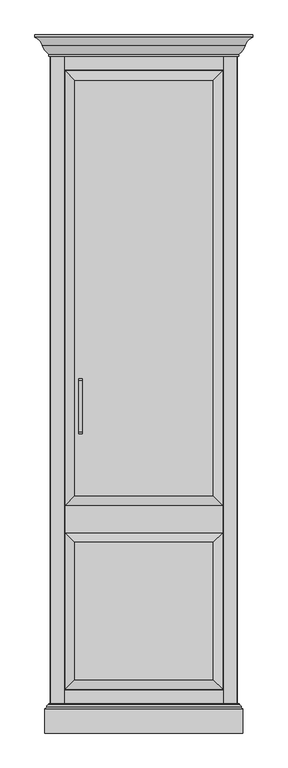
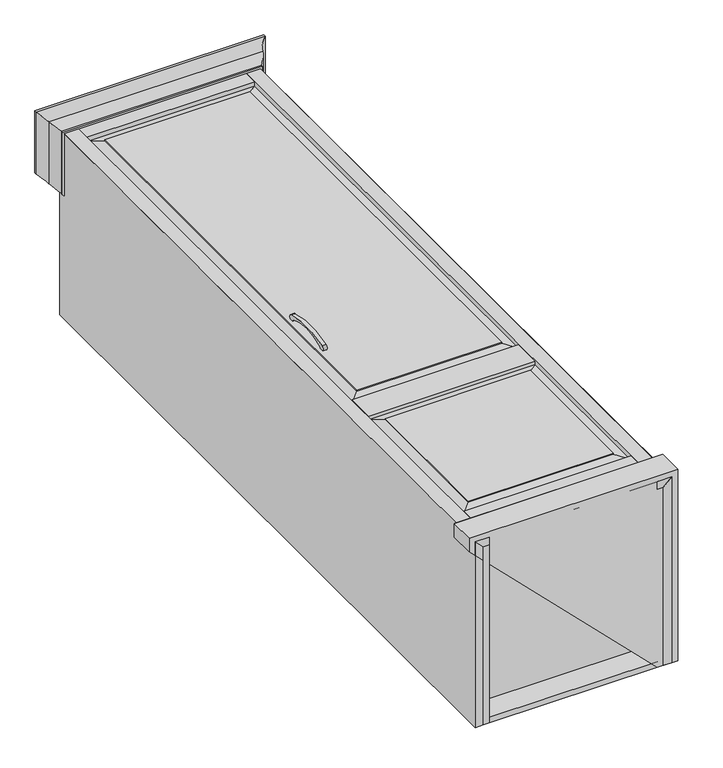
"""IFC4 building model written with IfcOpenShell, lengths in millimetres: proxy geometry, CCN^BRIGHTON_L1 24x24 RT WARDROBE-PARTS SOLID."""

from ifc_helpers import new_model, si_unit, point, frame, frame_2d, origin, place, context, project, spatial, polyline, circle_curve, ellipse_curve, trimmed, segment, composite_curve, outline, extrude, faceted_brep, source, transform, mapped, element, save
from ifc_brep_helpers import plane_surface, cylinder_surface, revolved_surface, advanced_brep


def generic_models_d91ada1b(model_context):
    return source(origin(), model_context, "Body", "SolidModel", [
        extrude(outline(composite_curve([segment(polyline([(-13.4070016, 318.9046891), (-24.7207101, 318.9046891)]), True, "CONTINUOUS"), segment(trimmed(circle_curve(frame_2d((-19.0638559, 325.9046891)), 9.0), [point((-24.7207101, 318.9046891))], [point((-28.0638559, 325.9046891))], False, "CARTESIAN"), True, "CONTINUOUS"), segment(trimmed(circle_curve(frame_2d((-100.0638559, 163.3351962)), 177.8), [point((-28.0638559, 325.9046891))], [point((-172.0638559, 325.9046891))], True, "CARTESIAN"), True, "CONTINUOUS"), segment(trimmed(circle_curve(frame_2d((-181.0638559, 325.9046891)), 9.0), [point((-172.0638559, 325.9046891))], [point((-175.4070016, 318.9046891))], False, "CARTESIAN"), True, "CONTINUOUS"), segment(polyline([(-175.4070016, 318.9046891), (-186.7207101, 318.9046891)]), True, "CONTINUOUS"), segment(trimmed(circle_curve(frame_2d((-181.0638559, 325.9046891)), 9.0), [point((-186.7207101, 318.9046891))], [point((-183.6732518, 334.5181119))], False, "CARTESIAN"), True, "CONTINUOUS"), segment(trimmed(circle_curve(frame_2d((-100.0638559, 58.5296891)), 288.375), [point((-183.6732518, 334.5181119))], [point((-16.4544599, 334.5181119))], False, "CARTESIAN"), True, "CONTINUOUS"), segment(trimmed(circle_curve(frame_2d((-19.0638559, 325.9046891)), 9.0), [point((-16.4544599, 334.5181119))], [point((-13.4070016, 318.9046891))], False, "CARTESIAN"), True, "CONTINUOUS")], self_intersect=False)), frame((-319.0362544, 0.0, 0.0), z_axis=(1.0, 0.0, 0.0), x_axis=(0.0, 1.0, 0.0)), (0.0, 0.0, 1.0), 12.0),
        extrude(outline(polyline([(-290.6953109, 198.1387456), (318.9046891, 198.1387456), (293.5046891, 172.7387456), (-290.6953109, 172.7387456), (-290.6953109, 198.1387456)])), frame((0.0, -1166.8638559, 0.0), z_axis=(0.0, 1.0, 0.0), x_axis=(0.0, 0.0, 1.0)), (0.0, 0.0, 1.0), 2235.2),
        extrude(outline(polyline([(318.9046891, -411.4612544), (293.5046891, -386.0612544), (293.5046891, -367.0112544), (318.9046891, -367.0112544), (318.9046891, -411.4612544)])), frame((0.0, -1166.8638559, 0.0), z_axis=(0.0, 1.0, 0.0), x_axis=(0.0, 0.0, 1.0)), (0.0, 0.0, 1.0), 2235.2),
        extrude(outline(polyline([(-367.0112544, 1042.9361441), (-367.0112544, -1166.8638559), (-386.0612544, -1166.8638559), (-386.0612544, 1042.9361441), (-367.0112544, 1042.9361441)])), frame((0.0, 0.0, -290.6953109), z_axis=(0.0, 0.0, 1.0), x_axis=(1.0, 0.0, 0.0)), (0.0, 0.0, 1.0), 584.2),
        extrude(outline(polyline([(-367.0112544, -1090.6638559), (-367.0112544, -1071.6138559), (153.6887456, -1071.6138559), (153.6887456, -1090.6638559), (-367.0112544, -1090.6638559)])), frame((0.0, 0.0, -271.6453109), z_axis=(0.0, 0.0, 1.0), x_axis=(1.0, 0.0, 0.0)), (0.0, 0.0, 1.0), 565.15),
        extrude(outline(polyline([(172.7387456, 1042.9361441), (-386.0612544, 1042.9361441), (-386.0612544, 1068.3361441), (172.7387456, 1068.3361441), (172.7387456, 1042.9361441)])), frame((0.0, 0.0, -290.6953109), z_axis=(0.0, 0.0, 1.0), x_axis=(1.0, 0.0, 0.0)), (0.0, 0.0, 1.0), 584.2),
        advanced_brep(
        [(-436.8052662, 1112.7861441, 344.2487009), (-387.8957697, 1042.9361441, 295.3392044), (-387.8957697, 1042.9361441, 92.1392044), (-436.8052662, 1112.7861441, 141.0487009), (174.5732609, 1042.9361441, -290.6953109), (203.7013456, 1042.9361441, -290.6953109), (203.7013456, 1042.9361441, 324.4672891), (-417.0238544, 1042.9361441, 324.4672891), (-417.0238544, 1042.9361441, 121.2672891), (174.5732609, 1042.9361441, 295.3392044), (223.4827575, 1112.7861441, -290.6953109), (248.9387456, 1112.7861441, -290.6953109), (248.9387456, 1104.8613441, -290.6953109), (224.8521176, 1078.8799586, -290.6953109), (203.7013456, 1049.6761688, -290.6953109), (223.4827575, 1112.7861441, 344.2487009), (-438.1746263, 1078.8799586, 142.418061), (-462.2612544, 1104.8613441, 166.5046891), (-462.2612544, 1112.7861441, 166.5046891), (-417.0238544, 1049.6761688, 121.2672891), (-462.2612544, 1112.7861441, 369.7046891), (248.9387456, 1112.7861441, 369.7046891), (-462.2612544, 1104.8613441, 369.7046891), (-438.1746263, 1078.8799586, 345.618061), (-417.0238544, 1049.6761688, 324.4672891), (224.8521176, 1078.8799586, 345.618061), (248.9387456, 1104.8613441, 369.7046891), (203.7013456, 1049.6761688, 324.4672891)],
        [
            (0, 1),
            (1, 2),
            (2, 3),
            (3, 0),
            (4, 5),
            (5, 6),
            (6, 7),
            (7, 8),
            (8, 2),
            (1, 9),
            (9, 4),
            (4, 10),
            (10, 11),
            (11, 12),
            (12, 13, circle_curve(frame((261.6320966, 1068.9379695, -290.6953109), z_axis=(0.0, 0.0, 1.0), x_axis=(0.9653537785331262, -0.2609445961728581, 0.0)), 38.1)),
            (13, 14, circle_curve(frame((175.8121456, 1092.1359441, -290.6953109), z_axis=(0.0, 0.0, -1.0), x_axis=(0.9653537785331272, -0.26094459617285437, 0.0)), 50.8)),
            (14, 5),
            (9, 15),
            (15, 10),
            (16, 17, ellipse_curve(frame((-474.9546053, 1068.9379695, 179.19804), z_axis=(0.7071067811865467, 0.0, 0.7071067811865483), x_axis=(0.7071067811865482, 0.0, -0.7071067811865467)), 53.8815367, 38.1)),
            (17, 18),
            (18, 3),
            (8, 19),
            (19, 16, ellipse_curve(frame((-389.1346544, 1092.1359441, 93.3780891), z_axis=(-0.7071067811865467, 0.0, -0.7071067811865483), x_axis=(0.7071067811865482, 0.0, -0.7071067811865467)), 71.842049, 50.8)),
            (18, 20),
            (20, 21),
            (21, 11),
            (15, 0),
            (17, 22),
            (22, 20),
            (16, 23),
            (23, 22, ellipse_curve(frame((-474.9546053, 1068.9379695, 382.39804), z_axis=(0.7071067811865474, 0.0, 0.7071067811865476), x_axis=(0.7071067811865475, 0.0, -0.7071067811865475)), 53.8815367, 38.1)),
            (19, 24),
            (24, 23, ellipse_curve(frame((-389.1346544, 1092.1359441, 296.5780891), z_axis=(-0.7071067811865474, 0.0, -0.7071067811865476), x_axis=(0.7071067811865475, 0.0, -0.7071067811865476)), 71.842049, 50.8)),
            (23, 25),
            (25, 26, ellipse_curve(frame((261.6320966, 1068.9379695, 382.39804), z_axis=(0.7071067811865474, 0.0, -0.7071067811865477), x_axis=(-0.7071067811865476, 0.0, -0.7071067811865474)), 53.8815367, 38.1)),
            (26, 22),
            (24, 27),
            (27, 25, ellipse_curve(frame((175.8121456, 1092.1359441, 296.5780891), z_axis=(-0.7071067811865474, 0.0, 0.7071067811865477), x_axis=(-0.7071067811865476, 0.0, -0.7071067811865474)), 71.842049, 50.8)),
            (24, 7),
            (6, 27),
            (12, 26),
            (25, 13),
            (21, 26),
            (14, 27),
        ],
        [
            plane_surface(frame((-436.8052662, 1112.7861441, 344.2487009), z_axis=(0.8191520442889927, 0.5735764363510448, 0.0), x_axis=(0.49754281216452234, -0.7105647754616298, -0.4975428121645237))),
            plane_surface(frame((198.1387456, 1042.9361441, 318.9046891), z_axis=(0.0, -1.0, 0.0), x_axis=(0.0, 0.0, 1.0))),
            plane_surface(frame((223.5387456, 1077.8611441, -290.6953109), z_axis=(0.0, 0.0, -1.0), x_axis=(-1.0, 0.0, 0.0))),
            plane_surface(frame((223.4827575, 1112.7861441, -290.6953109), z_axis=(-0.8191520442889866, 0.5735764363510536, 0.0), x_axis=(-0.5735764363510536, -0.8191520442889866, 0.0))),
            plane_surface(frame((-436.8612544, 1108.8237441, 141.1046891), z_axis=(-0.7071067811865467, 0.0, -0.7071067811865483), x_axis=(-0.7071067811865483, 0.0, 0.7071067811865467))),
            plane_surface(frame((198.1387456, 1112.7861441, 369.7046891), z_axis=(0.0, 1.0, 0.0), x_axis=(0.0, 0.0, -1.0))),
            plane_surface(frame((-462.2612544, 1104.8613441, 369.7046891), z_axis=(-1.0, 0.0, 0.0), x_axis=(0.0, 1.0, 0.0))),
            revolved_surface(polyline([(-513.0546053, 1068.9379695, 141.0980400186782), (-513.0546053, 1068.9379695, 420.4980399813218)]), (-474.9546053, 1068.9379695, 382.39804), (0.0, 0.0, -1.0)),
            cylinder_surface(frame((-389.1346544, 1092.1359441, 296.5780891), z_axis=(0.0, 0.0, -1.0), x_axis=(-1.0, 0.0, 0.0)), 50.8),
            revolved_surface(polyline([(-513.0546052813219, 1058.9959803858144, 419.17801896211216), (299.73209658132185, 1058.9959803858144, 419.17801896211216)]), (198.1387456, 1068.9379695, 382.39804), (-1.0, 0.0, 0.0)),
            cylinder_surface(frame((198.1387456, 1092.1359441, 296.5780891), z_axis=(-0.9999999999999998, 0.0, 0.0), x_axis=(0.0, -0.26094459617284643, 0.9653537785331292)), 50.8),
            plane_surface(frame((198.1387456, 1042.9361441, 324.4672891), z_axis=(0.0, 0.0, 1.0), x_axis=(0.0, 1.0, 0.0))),
            revolved_surface(polyline([(298.41207556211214, 1058.9959803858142, 420.49803998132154), (298.41207556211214, 1058.9959803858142, -290.6953109)]), (261.6320966, 1068.9379695, -290.6953109), (0.0, 0.0, 0.9999999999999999)),
            plane_surface(frame((248.9387456, 1104.8613441, -290.6953109), z_axis=(1.0, 0.0, 0.0), x_axis=(0.0, 1.0, 0.0))),
            plane_surface(frame((203.7013456, 1042.9361441, -290.6953109), z_axis=(1.0, 0.0, 0.0), x_axis=(0.0, 1.0, 0.0))),
            cylinder_surface(frame((175.8121456, 1092.1359441, -290.6953109), z_axis=(0.0, 0.0, 1.0), x_axis=(0.9653537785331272, -0.26094459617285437, 0.0)), 50.8),
            plane_surface(frame((-417.0238544, 1042.9361441, 324.4672891), z_axis=(-1.0, 0.0, 0.0), x_axis=(0.0, 1.0, 0.0))),
            plane_surface(frame((198.1387456, 1104.8613441, 369.7046891), z_axis=(0.0, 0.0, 1.0), x_axis=(0.0, 1.0, 0.0))),
            plane_surface(frame((198.1387456, 1112.7861441, 344.2487009), z_axis=(0.0, 0.5735764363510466, -0.8191520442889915), x_axis=(0.0, -0.8191520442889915, -0.5735764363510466))),
        ],
        [
            (0, [[1, 2, 3, 4]]),
            (1, [[5, 6, 7, 8, 9, -2, 10, 11]]),
            (2, [[-5, 12, 13, 14, 15, 16, 17]]),
            (3, [[18, 19, -12, -11]]),
            (4, [[20, 21, 22, -3, -9, 23, 24]]),
            (5, [[-22, 25, 26, 27, -13, -19, 28, -4]]),
            (6, [[-21, 29, 30, -25]]),
            (7, [[-20, 31, 32, -29]]),
            (8, [[-24, 33, 34, -31]]),
            (9, [[-32, 35, 36, 37]]),
            (10, [[-34, 38, 39, -35]]),
            (11, [[40, -7, 41, -38]]),
            (12, [[42, -36, 43, -15]]),
            (13, [[-27, 44, -42, -14]]),
            (14, [[-6, -17, 45, -41]]),
            (15, [[-43, -39, -45, -16]]),
            (16, [[-23, -8, -40, -33]]),
            (17, [[-26, -30, -37, -44]]),
            (18, [[-1, -28, -18, -10]]),
        ],
    ),
        extrude(outline(polyline([(293.5046891, 172.7387456), (318.9046891, 198.1387456), (318.9046891, 153.6887456), (293.5046891, 153.6887456), (293.5046891, 172.7387456)])), frame((0.0, -1166.8638559, 0.0), z_axis=(0.0, 1.0, 0.0), x_axis=(0.0, 0.0, 1.0)), (0.0, 0.0, 1.0), 2235.2),
        faceted_brep([(-332.0862544, -392.1638559, 318.9046891), (-332.0862544, -392.1638559, 315.7296891), (118.7637456, -392.1638559, 315.7296891), (118.7637456, -392.1638559, 318.9046891), (-363.8362544, -423.9138559, 307.2223022), (150.5137456, -423.9138559, 307.2223022), (-363.8362544, -512.8138559, 307.2223022), (-332.0862544, -544.5638559, 315.7296891), (118.7637456, -544.5638559, 315.7296891), (150.5137456, -512.8138559, 307.2223022), (-332.0862544, -544.5638559, 318.9046891), (118.7637456, -544.5638559, 318.9046891), (-332.0862544, 963.5611441, 318.9046891), (-332.0862544, 963.5611441, 315.7296891), (150.5137456, 995.3111441, 307.2223022), (118.7637456, 963.5611441, 315.7296891), (-332.0862544, -992.2388559, 318.9046891), (118.7637456, -992.2388559, 318.9046891), (150.5137456, -423.9138559, 318.9046891), (-363.8362544, -423.9138559, 318.9046891), (-363.8362544, -512.8138559, 318.9046891), (150.5137456, -512.8138559, 318.9046891), (118.7637456, 963.5611441, 318.9046891), (150.5137456, -1023.9888559, 307.2223022), (-363.8362544, -1023.9888559, 307.2223022), (-363.8362544, -1023.9888559, 299.8546891), (150.5137456, -1023.9888559, 299.8546891), (-332.0862544, -992.2388559, 315.7296891), (118.7637456, -992.2388559, 315.7296891), (-363.8362544, 995.3111441, 299.8546891), (150.5137456, 995.3111441, 299.8546891), (-363.8362544, 995.3111441, 307.2223022)], [[[0, 1, 2, 3]], [[1, 4, 5, 2]], [[6, 7, 8, 9]], [[7, 10, 11, 8]], [[1, 0, 12, 13]], [[2, 5, 14, 15]], [[11, 10, 16, 17]], [[18, 19, 20, 21]], [[0, 3, 22, 12]], [[4, 19, 18, 5]], [[6, 9, 21, 20]], [[23, 24, 25, 26]], [[27, 24, 23, 28]], [[16, 27, 28, 17]], [[10, 7, 27, 16]], [[7, 6, 24, 27]], [[8, 11, 17, 28]], [[9, 8, 28, 23]], [[25, 29, 30, 26]], [[4, 31, 29, 25, 24, 6, 20, 19]], [[3, 2, 15, 22]], [[4, 1, 13, 31]], [[15, 14, 31, 13]], [[22, 15, 13, 12]], [[31, 14, 30, 29]], [[26, 30, 14, 5, 18, 21, 9, 23]]]),
        extrude(outline(polyline([(-367.0112544, 998.4861441), (-367.0112544, 1068.3361441), (153.6887456, 1068.3361441), (153.6887456, 998.4861441), (-367.0112544, 998.4861441)])), frame((0.0, 0.0, 293.5046891), z_axis=(0.0, 0.0, 1.0), x_axis=(1.0, 0.0, 0.0)), (0.0, 0.0, 1.0), 25.4),
        advanced_brep(
        [(153.6887456, -1166.8638559, -290.6953109), (153.6887456, -1071.6138559, -290.6953109), (204.4887456, -1071.6138559, -290.6953109), (204.4887456, -1074.7888559, -290.6953109), (210.8387456, -1081.1388559, -290.6953109), (217.1887456, -1087.4888559, -290.6953109), (217.1887456, -1166.8638559, -290.6953109), (-430.5112544, -1166.8638559, 293.5046891), (217.1887456, -1166.8638559, 337.9546891), (-430.5112544, -1166.8638559, 337.9546891), (-430.5112544, -1087.4888559, 293.5046891), (-424.1612544, -1081.1388559, 287.1546891), (-417.8112544, -1074.7888559, 280.8046891), (-417.8112544, -1071.6138559, 280.8046891), (-430.5112544, -1087.4888559, 337.9546891), (-424.1612544, -1081.1388559, 331.6046891), (-417.8112544, -1071.6138559, 325.2546891), (204.4887456, -1071.6138559, 325.2546891), (-417.8112544, -1074.7888559, 325.2546891), (217.1887456, -1087.4888559, 337.9546891), (210.8387456, -1081.1388559, 331.6046891), (204.4887456, -1074.7888559, 325.2546891)],
        [
            (0, 1),
            (1, 2),
            (2, 3),
            (3, 4, circle_curve(frame((204.4887456, -1081.1388559, -290.6953109), z_axis=(0.0, 0.0, -1.0), x_axis=(1.0, 0.0, 0.0)), 6.35)),
            (4, 5, circle_curve(frame((217.1887456, -1081.1388559, -290.6953109), z_axis=(0.0, 0.0, 1.0), x_axis=(1.0, 0.0, 0.0)), 6.35)),
            (5, 6),
            (6, 0),
            (7, 0),
            (6, 8),
            (8, 9),
            (9, 7),
            (10, 11, ellipse_curve(frame((-430.5112544, -1081.1388559, 293.5046891), z_axis=(0.7071067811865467, 0.0, 0.7071067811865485), x_axis=(0.7071067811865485, 0.0, -0.7071067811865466)), 8.9802561, 6.35)),
            (11, 12, ellipse_curve(frame((-417.8112544, -1081.1388559, 280.8046891), z_axis=(-0.7071067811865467, 0.0, -0.7071067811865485), x_axis=(0.7071067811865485, 0.0, -0.7071067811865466)), 8.9802561, 6.35)),
            (12, 13),
            (13, 1),
            (7, 10),
            (10, 14),
            (14, 15, ellipse_curve(frame((-430.5112544, -1081.1388559, 337.9546891), z_axis=(0.707106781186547, 0.0, 0.7071067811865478), x_axis=(0.7071067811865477, 0.0, -0.7071067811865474)), 8.9802561, 6.35)),
            (15, 11),
            (9, 14),
            (13, 16),
            (16, 17),
            (17, 2),
            (12, 18),
            (18, 16),
            (15, 18, ellipse_curve(frame((-417.8112544, -1081.1388559, 325.2546891), z_axis=(-0.707106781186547, 0.0, -0.7071067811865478), x_axis=(0.7071067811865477, 0.0, -0.7071067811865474)), 8.9802561, 6.35)),
            (19, 8),
            (5, 19),
            (20, 19, ellipse_curve(frame((217.1887456, -1081.1388559, 337.9546891), z_axis=(-0.7071067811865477, 0.0, 0.7071067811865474), x_axis=(-0.7071067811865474, 0.0, -0.7071067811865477)), 8.9802561, 6.35)),
            (4, 20),
            (21, 20, ellipse_curve(frame((204.4887456, -1081.1388559, 325.2546891), z_axis=(0.7071067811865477, 0.0, -0.7071067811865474), x_axis=(-0.7071067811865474, 0.0, -0.7071067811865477)), 8.9802561, 6.35)),
            (3, 21),
            (17, 21),
            (21, 18),
            (15, 20),
            (14, 19),
        ],
        [
            plane_surface(frame((217.1887456, -1166.8638559, -290.6953109), z_axis=(0.0, 0.0, -1.0), x_axis=(-1.0, 0.0, 0.0))),
            plane_surface(frame((-116.1862544, -1166.8638559, 23.6296891), z_axis=(0.0, -1.0, 0.0), x_axis=(0.0, 0.0, -1.0))),
            plane_surface(frame((-430.5112544, -1166.8638559, 293.5046891), z_axis=(-0.7071067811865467, 0.0, -0.7071067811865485), x_axis=(0.7071067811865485, 0.0, -0.7071067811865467))),
            revolved_surface(polyline([(-436.8612544, -1081.1388559, 287.1546891), (-436.8612544, -1081.1388559, 344.30468908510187)]), (-430.5112544, -1081.1388559, 337.9546891), (0.0, 0.0, -1.0)),
            plane_surface(frame((-430.5112544, -1166.8638559, -290.6953109), z_axis=(-1.0, 0.0, 0.0), x_axis=(0.0, 0.0, 1.0))),
            plane_surface(frame((-116.1862544, -1071.6138559, 23.6296891), z_axis=(0.0, 1.0, 0.0), x_axis=(0.0, 0.0, 1.0))),
            plane_surface(frame((-417.8112544, -1071.6138559, 325.2546891), z_axis=(-1.0, 0.0, 0.0), x_axis=(0.0, -1.0, 0.0))),
            cylinder_surface(frame((-417.8112544, -1081.1388559, 325.2546891), z_axis=(0.0, 0.0, -1.0), x_axis=(-1.0, 0.0, 0.0)), 6.35),
            plane_surface(frame((217.1887456, -1087.4888559, 337.9546891), z_axis=(1.0, 0.0, 0.0), x_axis=(0.0, -1.0, 0.0))),
            revolved_surface(polyline([(223.5387456, -1081.1388559, -290.6953109), (223.5387456, -1081.1388559, 344.30468908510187)]), (217.1887456, -1081.1388559, 337.9546891), (0.0, 0.0, -1.0)),
            cylinder_surface(frame((204.4887456, -1081.1388559, 325.2546891), z_axis=(0.0, 0.0, -1.0), x_axis=(1.0, 0.0, 0.0)), 6.35),
            plane_surface(frame((204.4887456, -1071.6138559, 325.2546891), z_axis=(1.0, 0.0, 0.0), x_axis=(0.0, -1.0, 0.0))),
            cylinder_surface(frame((198.1387456, -1081.1388559, 325.2546891), z_axis=(-1.0, 0.0, 0.0), x_axis=(0.0, -1.0, 0.0)), 6.35),
            plane_surface(frame((198.1387456, -1071.6138559, 325.2546891), z_axis=(0.0, 0.0, 1.0), x_axis=(0.0, -1.0, 0.0))),
            revolved_surface(polyline([(-436.8612543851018, -1087.4888558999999, 337.9546891), (223.53874558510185, -1087.4888558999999, 337.9546891)]), (198.1387456, -1081.1388559, 337.9546891), (-1.0, 0.0, 0.0)),
            plane_surface(frame((-430.5112544, -1166.8638559, 337.9546891), z_axis=(0.0, 0.0, 1.0), x_axis=(1.0, 0.0, 0.0))),
        ],
        [
            (0, [[1, 2, 3, 4, 5, 6, 7]]),
            (1, [[8, -7, 9, 10, 11]]),
            (2, [[12, 13, 14, 15, -1, -8, 16]]),
            (3, [[-12, 17, 18, 19]]),
            (4, [[-16, -11, 20, -17]]),
            (5, [[-15, 21, 22, 23, -2]]),
            (6, [[-14, 24, 25, -21]]),
            (7, [[-13, -19, 26, -24]]),
            (8, [[27, -9, -6, 28]]),
            (9, [[29, -28, -5, 30]]),
            (10, [[31, -30, -4, 32]]),
            (11, [[33, -32, -3, -23]]),
            (12, [[34, -26, 35, -31]]),
            (13, [[-22, -25, -34, -33]]),
            (14, [[-35, -18, 36, -29]]),
            (15, [[-36, -20, -10, -27]]),
        ],
    ),
        extrude(outline(polyline([(153.6887456, -1166.8638559), (153.6887456, 1042.9361441), (172.7387456, 1042.9361441), (172.7387456, -1166.8638559), (153.6887456, -1166.8638559)])), frame((0.0, 0.0, -290.6953109), z_axis=(0.0, 0.0, 1.0), x_axis=(1.0, 0.0, 0.0)), (0.0, 0.0, 1.0), 584.2),
        extrude(outline(polyline([(152.8949956, 674.6361441), (-366.2175044, 674.6361441), (-366.2175044, 693.6861441), (152.8949956, 693.6861441), (152.8949956, 674.6361441)])), frame((0.0, 0.0, -271.6453109), z_axis=(0.0, 0.0, 1.0), x_axis=(1.0, 0.0, 0.0)), (0.0, 0.0, 1.0), 381.0),
        extrude(outline(polyline([(153.6887456, -1166.8638559), (-367.0112544, -1166.8638559), (-367.0112544, -1027.1638559), (153.6887456, -1027.1638559), (153.6887456, -1166.8638559)])), frame((0.0, 0.0, 293.5046891), z_axis=(0.0, 0.0, 1.0), x_axis=(1.0, 0.0, 0.0)), (0.0, 0.0, 1.0), 25.4),
        extrude(outline(polyline([(-290.6953109, -386.0612544), (293.5046891, -386.0612544), (318.9046891, -411.4612544), (-290.6953109, -411.4612544), (-290.6953109, -386.0612544)])), frame((0.0, -1166.8638559, 0.0), z_axis=(0.0, 1.0, 0.0), x_axis=(0.0, 0.0, 1.0)), (0.0, 0.0, 1.0), 2235.2),
        extrude(outline(polyline([(153.6887456, 1042.9361441), (153.6887456, -1166.8638559), (-367.0112544, -1166.8638559), (-367.0112544, 1042.9361441), (153.6887456, 1042.9361441)])), frame((0.0, 0.0, -290.6953109), z_axis=(0.0, 0.0, 1.0), x_axis=(1.0, 0.0, 0.0)), (0.0, 0.0, 1.0), 19.05),
    ])


if __name__ == "__main__":
    model = new_model("IFC4")
    model_context = context("Model", 3, world=origin())
    ifc_project = project(units=[si_unit("LENGTHUNIT", "METRE", prefix="MILLI")], contexts=[model_context])
    site = spatial("IfcSite", under=ifc_project)
    building = spatial("IfcBuilding", under=site)
    placement = place(None, origin())
    generic_models_shape = generic_models_d91ada1b(model_context)
    element("IfcBuildingElementProxy", 1, Name="CCN^BRIGHTON_L1 24x24 RT WARDROBE-PARTS SOLID", ObjectType="CCN^BRIGHTON_L1 24x24 RT WARDROBE-PARTS SOLID", at=placement, inside=building, context=model_context, shape_type="MappedRepresentation", body=[
        mapped(generic_models_shape, transform((0.0, 0.0, 0.0), x_axis=(1.0, 0.0, 0.0), y_axis=(0.0, 1.0, 0.0), z_axis=(0.0, 0.0, 1.0))),
    ])
    save(model, "model.ifc")
